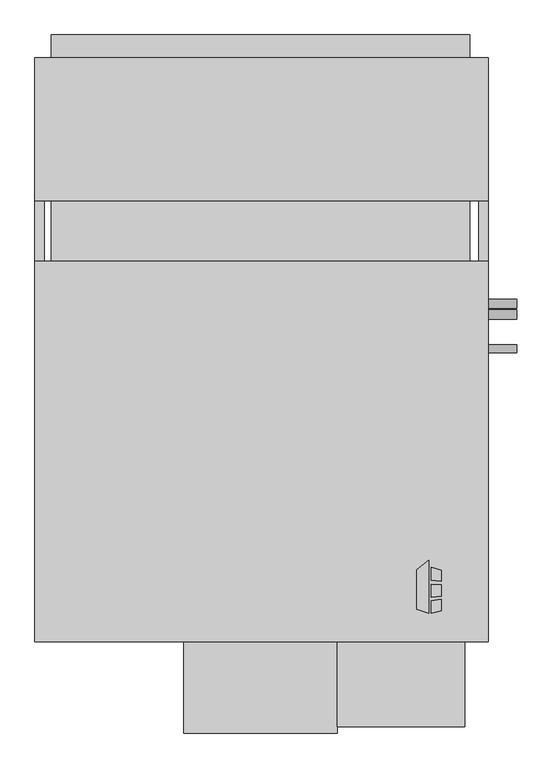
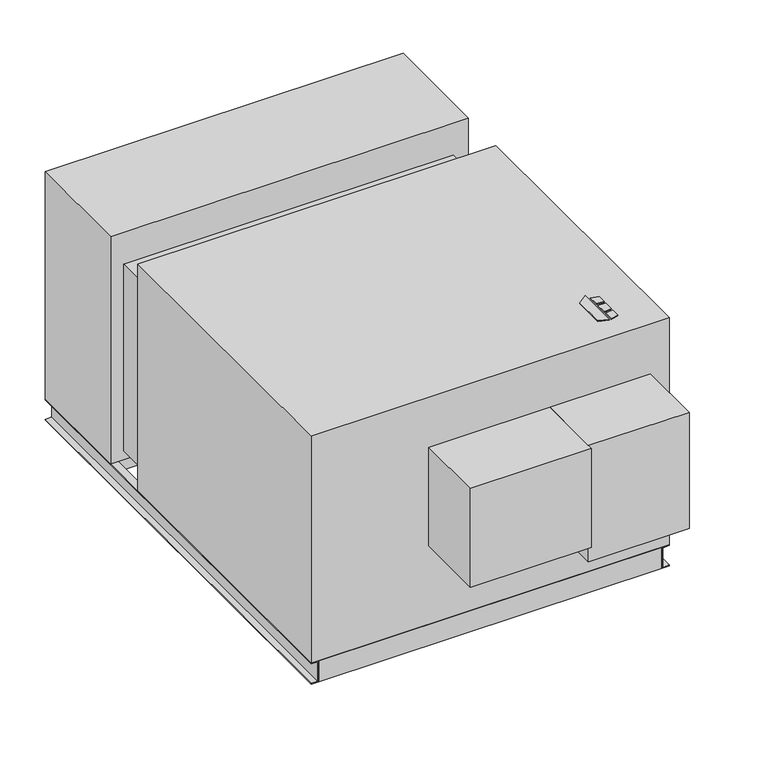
"""IFC4 building model written with IfcOpenShell, lengths in millimetres: proxy geometry, Horizontal_Direct_Drive_Blower_Coil_Unit_-_HDY_-_IEC_-_2-Pipe_Cool-EHeat_NFilterR_W-MixingBox_RH_2022 : Size 30 - 460v/60Hz/3Ph - 8 Row 30.0kW LH."""

import ifcopenshell
import ifcopenshell.guid

model = None  # the IFC model being written
_history = None  # IfcOwnerHistory: only IFC2X3 demands one
_inside = {}  # id of a spatial element -> (the spatial element, [elements in it])
_under = {}  # id of a project, library or spatial element -> (it, [spatial elements below it])
_declared = {}  # id of a project -> (the project, [libraries it declares])
_typed = {}  # id of a type object -> (the type object, [elements of that type])
_made_of = {}  # id of a material, layer set ... -> (it, [elements and type objects made of it])


def new_model(schema):
    """Start an empty IFC model of exactly this schema.

    Asked for "IFC4X3", IfcOpenShell would pick the latest addendum, in which some entities
    have other attributes; the version numbers below select the first issue.
    IFC2X3 requires an IfcOwnerHistory on every rooted entity: one is made here for all.
    """
    global model, _history
    if schema == "IFC4X3":
        model = ifcopenshell.file(schema_version=(4, 3, 0, 0))
    else:
        model = ifcopenshell.file(schema=schema)
    _inside.clear()
    _under.clear()
    _declared.clear()
    _typed.clear()
    _made_of.clear()
    _history = None
    if model.schema == "IFC2X3":
        org = make("IfcOrganization", Name="unknown")
        user = make(
            "IfcPersonAndOrganization",
            ThePerson=make("IfcPerson", FamilyName="unknown"),
            TheOrganization=org,
        )
        app = make(
            "IfcApplication",
            ApplicationDeveloper=org,
            Version="unknown",
            ApplicationFullName="unknown",
            ApplicationIdentifier="unknown",
        )
        _history = make(
            "IfcOwnerHistory",
            OwningUser=user,
            OwningApplication=app,
            ChangeAction="ADDED",
            CreationDate=0,
        )
    return model


def make(cls, **values):
    """One entity of the class cls with the attributes given. An attribute that is None is left unset."""
    return model.create_entity(
        cls, **{name: value for name, value in values.items() if value is not None}
    )


def rooted(cls, **values):
    """An entity with a GlobalId (a new one), such as an element, a storey or a relation."""
    return make(cls, GlobalId=ifcopenshell.guid.new(), OwnerHistory=_history, **values)


def si_unit(unit_type, name, prefix=None):
    """IfcSIUnit, for example si_unit("LENGTHUNIT", "METRE", prefix="MILLI")."""
    return make("IfcSIUnit", UnitType=unit_type, Prefix=prefix, Name=name)


def assignment(units):
    """IfcUnitAssignment: the units of a project."""
    return None if units is None else make("IfcUnitAssignment", Units=units)


def point(xyz):
    """IfcCartesianPoint."""
    return None if xyz is None else make("IfcCartesianPoint", Coordinates=xyz)


def direction(xyz):
    """IfcDirection."""
    return None if xyz is None else make("IfcDirection", DirectionRatios=xyz)


def frame(location, z_axis=None, x_axis=None):
    """IfcAxis2Placement3D, a coordinate frame: its origin and axes. An axis left out is left unset."""
    return make(
        "IfcAxis2Placement3D",
        Location=point(location),
        Axis=direction(z_axis),
        RefDirection=direction(x_axis),
    )


def frame_2d(location, x_axis=None):
    """IfcAxis2Placement2D, a coordinate frame in the plane: its origin and x axis."""
    return make(
        "IfcAxis2Placement2D", Location=point(location), RefDirection=direction(x_axis)
    )


def origin():
    """The frame at (0, 0, 0) with its axes left unset."""
    return frame((0.0, 0.0, 0.0))


def origin_with_axes():
    """The frame at (0, 0, 0) with the z axis (0, 0, 1) and the x axis (1, 0, 0) written out."""
    return frame((0.0, 0.0, 0.0), z_axis=(0.0, 0.0, 1.0), x_axis=(1.0, 0.0, 0.0))


def place(relative_to, where):
    """IfcLocalPlacement: puts the frame where relative to a parent placement (None: the world)."""
    return make(
        "IfcLocalPlacement", PlacementRelTo=relative_to, RelativePlacement=where
    )


def context(
    kind, dimensions, precision=None, world=None, true_north=None, identifier=None
):
    """IfcGeometricRepresentationContext, for example the 3D "Model" context."""
    return make(
        "IfcGeometricRepresentationContext",
        ContextIdentifier=identifier,
        ContextType=kind,
        CoordinateSpaceDimension=dimensions,
        Precision=precision,
        WorldCoordinateSystem=world,
        TrueNorth=true_north,
    )


def project(units=None, contexts=None):
    """IfcProject with its units and contexts."""
    return rooted(
        "IfcProject",
        Name="project",
        RepresentationContexts=contexts,
        UnitsInContext=assignment(units),
    )


def spatial(cls, under=None, at=None, **own):
    """A site, building, storey or space (cls), placed at a placement, below another one or the project."""
    s = rooted(cls, ObjectPlacement=at, **own)
    if under is not None:
        _under.setdefault(under.id(), (under, []))[1].append(s)
    return s


def polyline(points):
    """IfcPolyline through the points."""
    return make("IfcPolyline", Points=[point(p) for p in points])


def circle_curve(where, radius):
    """IfcCircle in the frame where."""
    return make("IfcCircle", Position=where, Radius=radius)


def trimmed(basis, trim1, trim2, sense, master):
    """IfcTrimmedCurve: the piece of a basis curve between two trims."""
    return make(
        "IfcTrimmedCurve",
        BasisCurve=basis,
        Trim1=trim1,
        Trim2=trim2,
        SenseAgreement=sense,
        MasterRepresentation=master,
    )


def segment(curve, same_sense, transition):
    """IfcCompositeCurveSegment."""
    return make(
        "IfcCompositeCurveSegment",
        Transition=transition,
        SameSense=same_sense,
        ParentCurve=curve,
    )


def composite_curve(segments, self_intersect=None):
    """IfcCompositeCurve: segments joined end to end."""
    return make("IfcCompositeCurve", Segments=segments, SelfIntersect=self_intersect)


def outline(outer, holes=None, kind="AREA"):
    """IfcArbitraryClosedProfileDef: a profile drawn as a closed curve; with holes, ...WithVoids."""
    if holes is None:
        return make("IfcArbitraryClosedProfileDef", ProfileType=kind, OuterCurve=outer)
    return make(
        "IfcArbitraryProfileDefWithVoids",
        ProfileType=kind,
        OuterCurve=outer,
        InnerCurves=holes,
    )


def extrude(swept, where, along, depth):
    """IfcExtrudedAreaSolid: the profile swept, set in the frame where, extruded along a direction by depth."""
    return make(
        "IfcExtrudedAreaSolid",
        SweptArea=swept,
        Position=where,
        ExtrudedDirection=direction(along),
        Depth=depth,
    )


def shape(context_of_items, identifier, shape_type, items):
    """IfcShapeRepresentation: the items that make up one representation, for example the "Body"."""
    return make(
        "IfcShapeRepresentation",
        ContextOfItems=context_of_items,
        RepresentationIdentifier=identifier,
        RepresentationType=shape_type,
        Items=items,
    )


def source(mapping_origin, context_of_items, identifier, shape_type, items):
    """IfcRepresentationMap: a shape defined once, which mapped items show again and again."""
    return make(
        "IfcRepresentationMap",
        MappingOrigin=mapping_origin,
        MappedRepresentation=shape(context_of_items, identifier, shape_type, items),
    )


def transform(
    local_origin,
    x_axis=None,
    y_axis=None,
    z_axis=None,
    scale=None,
    scale2=None,
    scale3=None,
    uniform=True,
):
    """IfcCartesianTransformationOperator3D, or its non-uniform kind. x_axis, y_axis, z_axis: its Axis1, 2, 3."""
    if uniform:
        return make(
            "IfcCartesianTransformationOperator3D",
            Axis1=direction(x_axis),
            Axis2=direction(y_axis),
            LocalOrigin=point(local_origin),
            Scale=scale,
            Axis3=direction(z_axis),
        )
    return make(
        "IfcCartesianTransformationOperator3DnonUniform",
        Axis1=direction(x_axis),
        Axis2=direction(y_axis),
        LocalOrigin=point(local_origin),
        Scale=scale,
        Axis3=direction(z_axis),
        Scale2=scale2,
        Scale3=scale3,
    )


def mapped(mapping_source, mapping_target):
    """IfcMappedItem: shows the shape of a source again, moved by a transform."""
    return make(
        "IfcMappedItem", MappingSource=mapping_source, MappingTarget=mapping_target
    )


def made_of(thing, what):
    """Note that an element or type object is made of a material, layer set ...; save() writes the relation."""
    if what is not None:
        _made_of.setdefault(what.id(), (what, []))[1].append(thing)
    return thing


def element(
    cls,
    number,
    at=None,
    inside=None,
    cuts=None,
    type_object=None,
    material=None,
    context=None,
    identifier="Body",
    shape_type=None,
    held_by="IfcProductDefinitionShape",
    body=None,
    shapes=None,
    **own,
):
    """One element of the class cls, such as IfcWall. Its Tag is "e" and its number.

    at: its placement. inside: the storey or other place that contains it. cuts: it is an
    opening in that element (IfcRelVoidsElement). A single representation is given by context,
    identifier, shape_type and body (its items); several are given by shapes. held_by: the class
    of the entity that holds the representations. save() writes the other relations.
    """
    e = rooted(cls, Tag="e%d" % number, ObjectPlacement=at, **own)
    if body is not None:
        shapes = [shape(context, identifier, shape_type, body)]
    if shapes is not None:
        e.Representation = make(held_by, Representations=shapes)
    if inside is not None:
        _inside.setdefault(inside.id(), (inside, []))[1].append(e)
    if cuts is not None:
        rooted(
            "IfcRelVoidsElement", RelatingBuildingElement=cuts, RelatedOpeningElement=e
        )
    if type_object is not None:
        _typed.setdefault(type_object.id(), (type_object, []))[1].append(e)
    return made_of(e, material)


def aggregate(whole, parts):
    """IfcRelAggregates: a whole, such as a stair, and the parts it consists of."""
    return rooted("IfcRelAggregates", RelatingObject=whole, RelatedObjects=parts)


def save(model, path):
    """Write the relations noted so far, then the file.

    IfcRelAggregates (storeys below a building ...), IfcRelContainedInSpatialStructure (elements
    in a storey), IfcRelDefinesByType, IfcRelAssociatesMaterial and IfcRelDeclares: one each for
    every whole, place, type object, material and project.
    """
    for whole, parts in _under.values():
        aggregate(whole, parts)
    for where, things in _inside.values():
        rooted(
            "IfcRelContainedInSpatialStructure",
            RelatedElements=things,
            RelatingStructure=where,
        )
    for kind, things in _typed.values():
        rooted("IfcRelDefinesByType", RelatedObjects=things, RelatingType=kind)
    for what, things in _made_of.values():
        rooted("IfcRelAssociatesMaterial", RelatedObjects=things, RelatingMaterial=what)
    for by, libraries in _declared.values():
        rooted("IfcRelDeclares", RelatingContext=by, RelatedDefinitions=libraries)
    model.write(path)


def mechanical_equipment_c2c5c093(model_context):
    return source(origin(), model_context, "Body", "SweptSolid", [
        extrude(outline(polyline([(-39.9980239, -337.5078476), (-7.4397272, -312.0705184), (-7.4397272, -454.025), (-39.9980239, -443.8054201), (-39.9980239, -337.5078476)])), origin_with_axes(), (0.0, 0.0, 1.0), 3.175),
        extrude(outline(polyline([(-0.6813942, -365.379852), (-0.6813942, -330.8999379), (25.4, -339.0865115), (25.4, -368.5822446), (-0.6813942, -365.379852)])), origin_with_axes(), (0.0, 0.0, 1.0), 3.175),
        extrude(outline(polyline([(25.4, -447.0365115), (-0.6813942, -454.025), (-0.6813942, -420.8036996), (25.4, -417.2618564), (25.4, -447.0365115)])), origin_with_axes(), (0.0, 0.0, 1.0), 3.175),
        extrude(outline(polyline([(25.4, -377.6638277), (25.4, -408.913983), (-0.6813942, -411.655248), (-0.6813942, -375.7975378), (25.4, -377.6638277)])), origin_with_axes(), (0.0, 0.0, 1.0), 3.175),
        extrude(outline(polyline([(101.6, 937.895), (101.6, 683.895), (-1022.35, 683.895), (-1022.35, 937.895), (101.6, 937.895)])), frame((0.0, 0.0, -880.11), z_axis=(0.0, 0.0, 1.0), x_axis=(1.0, 0.0, 0.0)), (0.0, 0.0, 1.0), 60.96),
        extrude(outline(polyline([(-1022.35, 1100.455), (101.6, 1100.455), (101.6, 1039.495), (-1022.35, 1039.495), (-1022.35, 1100.455)])), frame((0.0, 0.0, -330.2), z_axis=(0.0, 0.0, 1.0), x_axis=(1.0, 0.0, 0.0)), (0.0, 0.0, 1.0), 254.0),
        extrude(outline(polyline([(152.4, 1039.495), (152.4, 654.05), (-1066.8, 654.05), (-1066.8, 1039.495), (152.4, 1039.495)])), frame((0.0, 0.0, -819.15), z_axis=(0.0, 0.0, 1.0), x_axis=(1.0, 0.0, 0.0)), (0.0, 0.0, 1.0), 819.15),
        extrude(outline(polyline([(127.0, -504.825), (127.0, -530.225), (-1041.4, -530.225), (-1041.4, -504.825), (127.0, -504.825)])), frame((0.0, 0.0, -895.35), z_axis=(0.0, 0.0, 1.0), x_axis=(1.0, 0.0, 0.0)), (0.0, 0.0, 1.0), 76.2),
        extrude(outline(polyline([(127.0, 1039.495), (127.0, 1014.095), (-1041.4, 1014.095), (-1041.4, 1039.495), (127.0, 1039.495)])), frame((0.0, 0.0, -895.35), z_axis=(0.0, 0.0, 1.0), x_axis=(1.0, 0.0, 0.0)), (0.0, 0.0, 1.0), 76.2),
        extrude(outline(polyline([(-819.15, -1041.4), (-819.15, -1066.8), (-822.325, -1066.8), (-822.325, -1044.575), (-892.175, -1044.575), (-892.175, -1066.8), (-895.35, -1066.8), (-895.35, -1041.4), (-819.15, -1041.4)])), frame((0.0, -530.225, 0.0), z_axis=(0.0, 1.0, 0.0), x_axis=(0.0, 0.0, 1.0)), (0.0, 0.0, 1.0), 1569.72),
        extrude(outline(polyline([(-819.15, 127.0), (-895.35, 127.0), (-895.35, 152.4), (-892.175, 152.4), (-892.175, 130.175), (-822.325, 130.175), (-822.325, 152.4), (-819.15, 152.4), (-819.15, 127.0)])), frame((0.0, -530.225, 0.0), z_axis=(0.0, 1.0, 0.0), x_axis=(0.0, 0.0, 1.0)), (0.0, 0.0, 1.0), 1569.72),
        extrude(outline(composite_curve([segment(trimmed(circle_curve(frame_2d((377.825, -177.8)), 12.7), [point((390.525, -177.8))], [point((365.125, -177.8))], False, "CARTESIAN"), True, "CONTINUOUS"), segment(trimmed(circle_curve(frame_2d((377.825, -177.8)), 12.7), [point((365.125, -177.8))], [point((390.525, -177.8))], False, "CARTESIAN"), True, "CONTINUOUS")], self_intersect=False)), frame((152.4, 0.0, 0.0), z_axis=(1.0, 0.0, 0.0), x_axis=(0.0, 1.0, 0.0)), (0.0, 0.0, 1.0), 76.2),
        extrude(outline(composite_curve([segment(trimmed(circle_curve(frame_2d((348.9715397, -692.15)), 12.7), [point((361.6715397, -692.15))], [point((336.2715397, -692.15))], False, "CARTESIAN"), True, "CONTINUOUS"), segment(trimmed(circle_curve(frame_2d((348.9715397, -692.15)), 12.7), [point((336.2715397, -692.15))], [point((361.6715397, -692.15))], False, "CARTESIAN"), True, "CONTINUOUS")], self_intersect=False)), frame((152.4, 0.0, 0.0), z_axis=(1.0, 0.0, 0.0), x_axis=(0.0, 1.0, 0.0)), (0.0, 0.0, 1.0), 76.2),
        extrude(outline(composite_curve([segment(trimmed(circle_curve(frame_2d((257.175, -774.7)), 11.1125), [point((268.2875, -774.7))], [point((246.0625, -774.7))], False, "CARTESIAN"), True, "CONTINUOUS"), segment(trimmed(circle_curve(frame_2d((257.175, -774.7)), 11.1125), [point((246.0625, -774.7))], [point((268.2875, -774.7))], False, "CARTESIAN"), True, "CONTINUOUS")], self_intersect=False)), frame((152.4, 0.0, 0.0), z_axis=(1.0, 0.0, 0.0), x_axis=(0.0, 1.0, 0.0)), (0.0, 0.0, 1.0), 76.2),
        extrude(outline(polyline([(152.4, 492.125), (152.4, -530.225), (-1066.8, -530.225), (-1066.8, 492.125), (152.4, 492.125)])), frame((0.0, 0.0, -819.15), z_axis=(0.0, 0.0, 1.0), x_axis=(1.0, 0.0, 0.0)), (0.0, 0.0, 1.0), 819.15),
        extrude(outline(polyline([(88.9, -758.825), (-254.0, -758.825), (-254.0, -530.225), (88.9, -530.225), (88.9, -758.825)])), frame((0.0, 0.0, -600.075), z_axis=(0.0, 0.0, 1.0), x_axis=(1.0, 0.0, 0.0)), (0.0, 0.0, 1.0), 419.1),
        extrude(outline(polyline([(-1022.35, 654.05), (101.6, 654.05), (101.6, 492.125), (-1022.35, 492.125), (-1022.35, 654.05)])), frame((0.0, 0.0, -787.4), z_axis=(0.0, 0.0, 1.0), x_axis=(1.0, 0.0, 0.0)), (0.0, 0.0, 1.0), 673.1),
        extrude(outline(polyline([(-254.0, -776.2875), (-666.75, -776.2875), (-666.75, -530.225), (-254.0, -530.225), (-254.0, -776.2875)])), frame((0.0, 0.0, -536.575), z_axis=(0.0, 0.0, 1.0), x_axis=(1.0, 0.0, 0.0)), (0.0, 0.0, 1.0), 355.6),
    ])


if __name__ == "__main__":
    model = new_model("IFC4")
    model_context = context("Model", 3, world=origin())
    ifc_project = project(units=[si_unit("LENGTHUNIT", "METRE", prefix="MILLI")], contexts=[model_context])
    site = spatial("IfcSite", under=ifc_project)
    building = spatial("IfcBuilding", under=site)
    placement = place(None, origin())
    mechanical_equipment_shape = mechanical_equipment_c2c5c093(model_context)
    element("IfcBuildingElementProxy", 1, Name="Horizontal_Direct_Drive_Blower_Coil_Unit_-_HDY_-_IEC_-_2-Pipe_Cool-EHeat_NFilterR_W-MixingBox_RH_2022 : Size 30 - 460v/60Hz/3Ph - 8 Row 30.0kW LH", ObjectType="Horizontal_Direct_Drive_Blower_Coil_Unit_-_HDY_-_IEC_-_2-Pipe_Cool-EHeat_NFilterR_W-MixingBox_RH_2022 : Size 30 - 460v/60Hz/3Ph - 8 Row 30.0kW LH", at=placement, inside=building, context=model_context, shape_type="MappedRepresentation", body=[
        mapped(mechanical_equipment_shape, transform((0.0, 0.0, 0.0), x_axis=(1.0, 0.0, 0.0), y_axis=(0.0, 1.0, 0.0), z_axis=(0.0, 0.0, 1.0))),
    ])
    save(model, "model.ifc")
